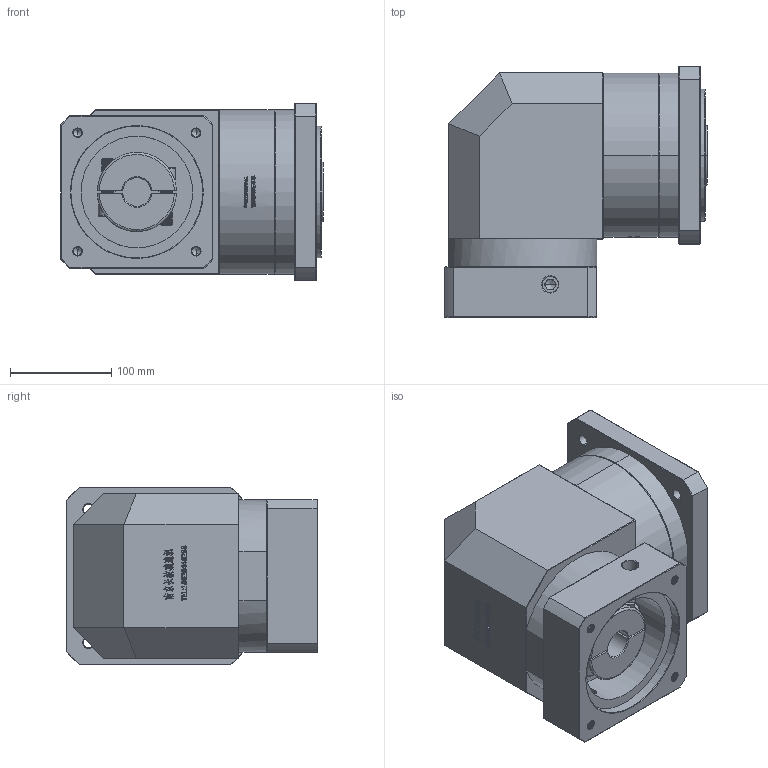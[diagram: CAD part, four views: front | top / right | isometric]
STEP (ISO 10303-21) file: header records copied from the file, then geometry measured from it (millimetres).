
FILE_DESCRIPTION (( 'STEP AP214' ), '1' );
FILE_NAME ('ZFR160A-K35-L1-28-130-165-M10.step', '2023-03-22T11:47:11', ( '' ), ( '' ), 'SwSTEP 2.0', 'SolidWorks 2016', '' );
FILE_SCHEMA (( 'AUTOMOTIVE_DESIGN' ));
Length unit declared in the file: millimetre
Products named in the file (1): ZFR160A-K35-L1-28-130-165-M10
Bounding box: 258.7 x 247.5 x 175 mm (x, y, z)
Volume: 6468863.4 mm3; surface area: 435411.7 mm2
Topology: 6 solids, 6 shells, 2457 faces, 6468 edges, 4163 vertices
Faces by surface type: plane 1268, bspline 494, cylinder 374, cone 301, torus 20
Entity records: 137160 total; most frequent: CARTESIAN_POINT 53634, ORIENTED_EDGE 12880, DIRECTION 9808, EDGE_CURVE 6440, VERTEX_POINT 4163, LINE 4092, VECTOR 4092, AXIS2_PLACEMENT_3D 2858
